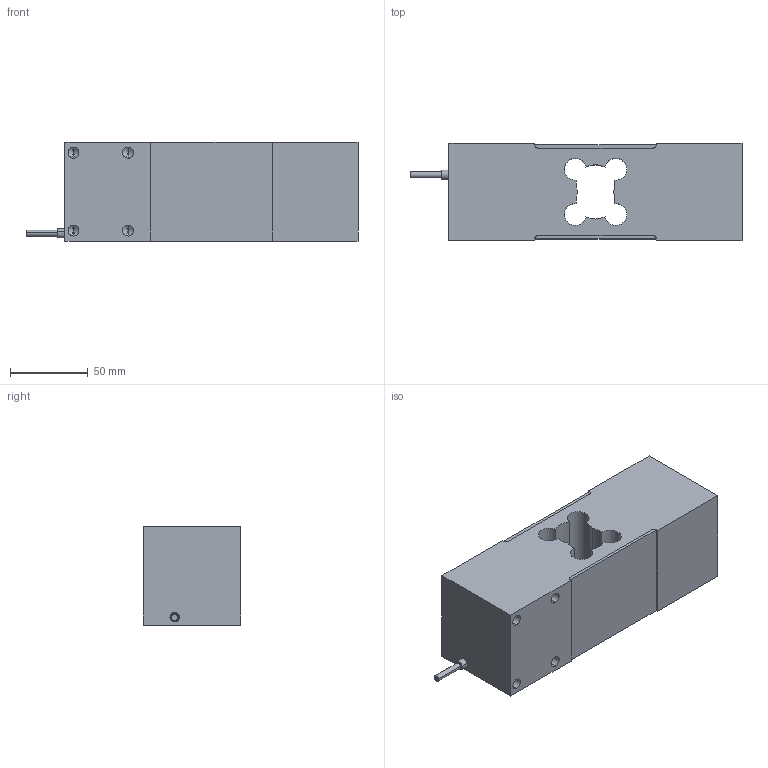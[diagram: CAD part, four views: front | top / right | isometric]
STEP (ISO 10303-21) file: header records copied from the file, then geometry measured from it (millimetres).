
FILE_DESCRIPTION (( 'STEP AP203' ), '1' );
FILE_NAME ('L6W assembly.STEP', '2014-02-12T16:06:38', ( 'Gebruiker' ), ( '' ), 'SwSTEP 2.0', 'SolidWorks 2011', '' );
FILE_SCHEMA (( 'CONFIG_CONTROL_DESIGN' ));
Length unit declared in the file: millimetre
Products named in the file (1): L6W assembly
Bounding box: 213 x 62.3 x 64 mm (x, y, z)
Volume: 645692.4 mm3; surface area: 93596.5 mm2
Topology: 5 solids, 5 shells, 115 faces, 285 edges, 176 vertices
Faces by surface type: cylinder 52, plane 45, cone 16, torus 2
Entity records: 3384 total; most frequent: DIRECTION 609, CARTESIAN_POINT 561, ORIENTED_EDGE 538, EDGE_CURVE 269, AXIS2_PLACEMENT_3D 224, VERTEX_POINT 176, VECTOR 161, LINE 161
